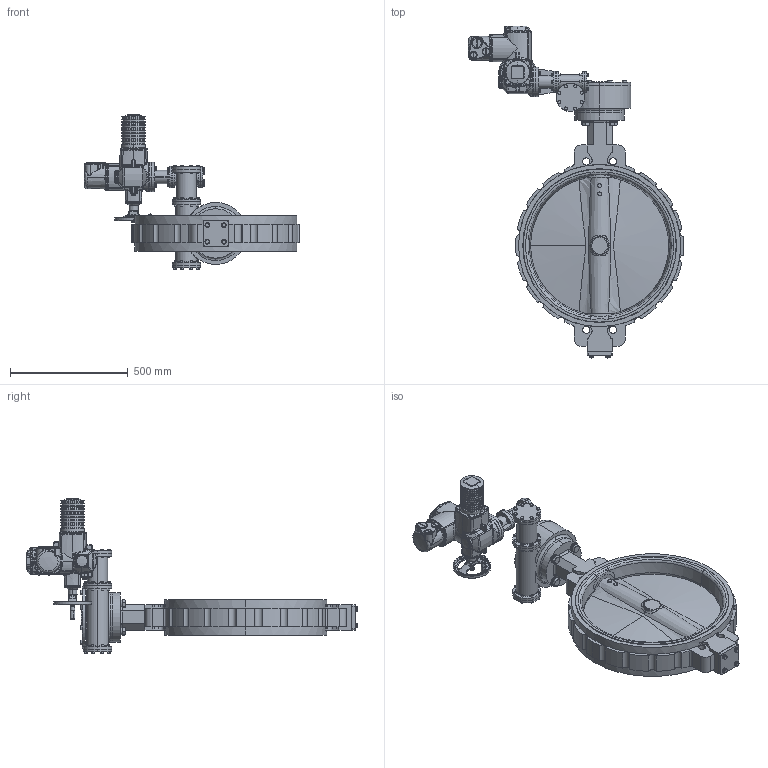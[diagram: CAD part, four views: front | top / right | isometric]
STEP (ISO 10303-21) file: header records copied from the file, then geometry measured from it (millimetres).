
FILE_DESCRIPTION (( 'STEP AP214' ), '1' );
FILE_NAME ('VPE440X-U04EP0600.STEP', '2020-08-04T11:52:02', ( '' ), ( '' ), 'SwSTEP 2.0', 'SolidWorks 2017', '' );
FILE_SCHEMA (( 'AUTOMOTIVE_DESIGN' ));
Length unit declared in the file: millimetre
Products named in the file (1): VPE440X-U04EP0600
Bounding box: 915.69 x 1411.8 x 655.46 mm (x, y, z)
Surface area: 3286399.5 mm2 (no closed solid volume)
Topology: 0 solids, 200 shells, 1969 faces, 6878 edges, 4787 vertices
Faces by surface type: plane 631, bspline 538, cylinder 476, cone 302, torus 22
Entity records: 291359 total; most frequent: CARTESIAN_POINT 218083, ORIENTED_EDGE 10351, DIRECTION 9144, EDGE_CURVE 6843, VERTEX_POINT 4787, AXIS2_PLACEMENT_3D 3515, B_SPLINE_CURVE_WITH_KNOTS 2508, EDGE_LOOP 2150
